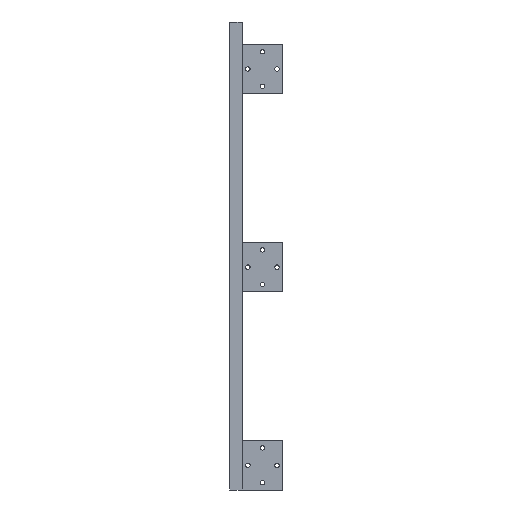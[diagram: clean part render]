
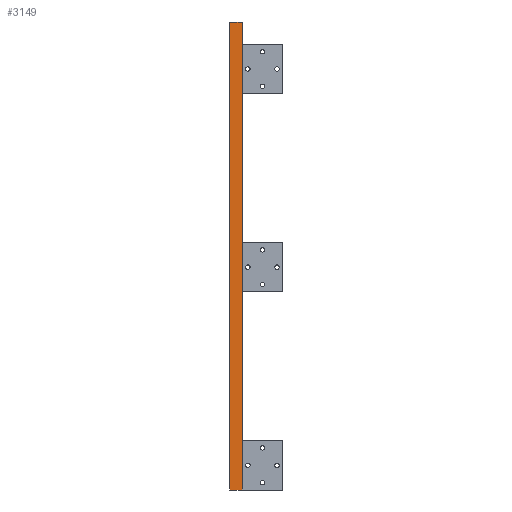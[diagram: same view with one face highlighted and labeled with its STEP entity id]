
A CAD part, front view. The second image highlights one B-rep face of the part: STEP entity #3149.
In plain terms, the highlighted planar face has unit normal (0, -1, 0).
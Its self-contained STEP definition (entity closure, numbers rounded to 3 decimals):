
#368=FACE_OUTER_BOUND('',#5977,.T.);
#1008=LINE('',#19355,#1716);
#1016=LINE('',#19459,#1724);
#1017=LINE('',#19461,#1725);
#1018=LINE('',#19462,#1726);
#1716=VECTOR('',#16028,1.);
#1724=VECTOR('',#16128,1.);
#1725=VECTOR('',#16131,1.);
#1726=VECTOR('',#16132,1.);
#3149=ADVANCED_FACE('',(#368),#3696,.T.);
#3696=PLANE('',#13087);
#5977=EDGE_LOOP('',(#8448,#8449,#8450,#8451));
#8448=ORIENTED_EDGE('',*,*,#11189,.F.);
#8449=ORIENTED_EDGE('',*,*,#11188,.F.);
#8450=ORIENTED_EDGE('',*,*,#11190,.T.);
#8451=ORIENTED_EDGE('',*,*,#11136,.T.);
#9845=VERTEX_POINT('',#19353);
#9847=VERTEX_POINT('',#19356);
#9895=VERTEX_POINT('',#19456);
#9896=VERTEX_POINT('',#19458);
#11136=EDGE_CURVE('',#9847,#9845,#1008,.T.);
#11188=EDGE_CURVE('',#9896,#9895,#1016,.T.);
#11189=EDGE_CURVE('',#9895,#9845,#1017,.T.);
#11190=EDGE_CURVE('',#9896,#9847,#1018,.T.);
#13087=AXIS2_PLACEMENT_3D('',#19463,#16133,#16134);
#16028=DIRECTION('',(0.,0.,-1.));
#16128=DIRECTION('',(0.,0.,-1.));
#16131=DIRECTION('',(-1.,0.,0.));
#16132=DIRECTION('',(-1.,0.,0.));
#16133=DIRECTION('',(0.,-1.,0.));
#16134=DIRECTION('',(0.,0.,-1.));
#19353=CARTESIAN_POINT('',(-12.5,-483.5,-281.));
#19355=CARTESIAN_POINT('',(-12.5,-483.5,664.));
#19356=CARTESIAN_POINT('',(-12.5,-483.5,664.));
#19456=CARTESIAN_POINT('',(12.5,-483.5,-281.));
#19458=CARTESIAN_POINT('',(12.5,-483.5,664.));
#19459=CARTESIAN_POINT('',(12.5,-483.5,664.));
#19461=CARTESIAN_POINT('',(12.5,-483.5,-281.));
#19462=CARTESIAN_POINT('',(12.5,-483.5,664.));
#19463=CARTESIAN_POINT('',(12.5,-483.5,664.));
